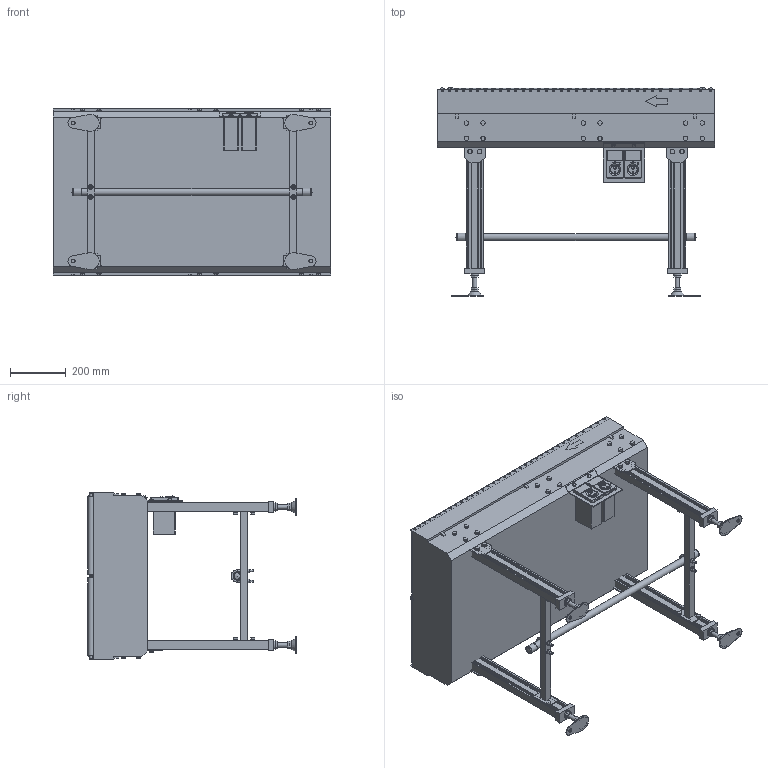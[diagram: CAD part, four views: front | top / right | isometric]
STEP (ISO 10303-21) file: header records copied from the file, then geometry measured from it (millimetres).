
FILE_DESCRIPTION (( 'STEP AP214' ), '1' );
FILE_NAME ('GA22-304x2-500-100-DC-7.5.STEP', '2024-08-08T23:09:04', ( '' ), ( '' ), 'SwSTEP 2.0', 'SolidWorks 2017', '' );
FILE_SCHEMA (( 'AUTOMOTIVE_DESIGN' ));
Length unit declared in the file: millimetre
Products named in the file (1): GA22-304x2-500-100-DC-7.5
Bounding box: 1000 x 750 x 603.31 mm (x, y, z)
Volume: 129003869.7 mm3; surface area: 4401191.4 mm2
Topology: 19 solids, 19 shells, 2029 faces, 5080 edges, 3380 vertices
Faces by surface type: plane 1448, cylinder 547, cone 18, torus 16
Full cylindrical faces by diameter (mm): 4.5 x8, 6 x70, 7 x4, 8 x140, 8.723 x8, 12.2 x2, 13 x4, 15.4 x40, 16 x8, 17 x12, 25.4 x1, 28.4 x2, 29.825 x2, 30 x4
Entity records: 58013 total; most frequent: CARTESIAN_POINT 11293, DIRECTION 9377, ORIENTED_EDGE 9186, EDGE_CURVE 4593, LINE 3285, VECTOR 3285, VERTEX_POINT 3224, AXIS2_PLACEMENT_3D 3046
